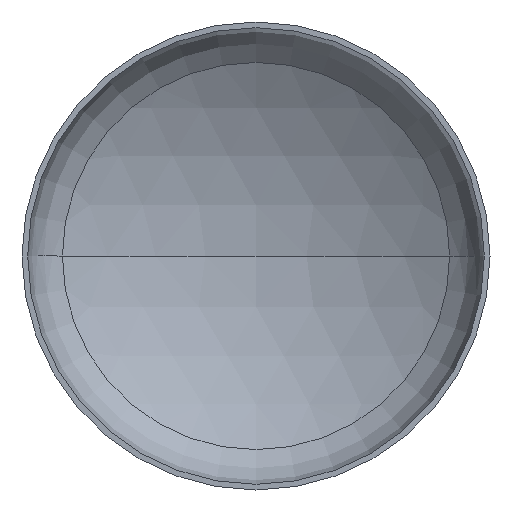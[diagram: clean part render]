
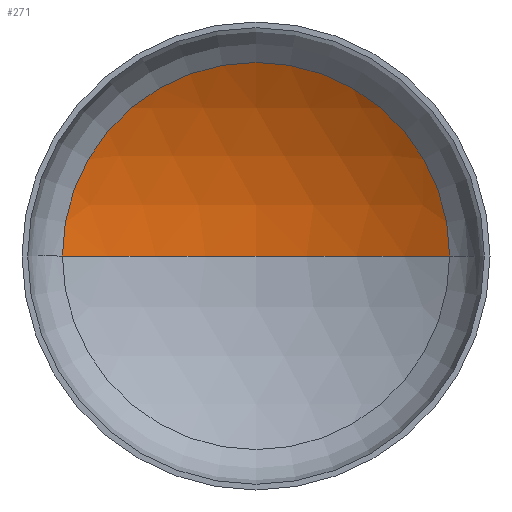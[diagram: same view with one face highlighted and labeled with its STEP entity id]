
A CAD part, front view. The second image highlights one B-rep face of the part: STEP entity #271.
In plain terms, the highlighted spherical face has radius 2240 mm.
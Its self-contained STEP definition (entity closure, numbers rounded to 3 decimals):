
#2 = AXIS2_PLACEMENT_3D ( 'NONE', #179, #390, #240 ) ;
#7 = EDGE_LOOP ( 'NONE', ( #23, #15, #111 ) ) ;
#10 = AXIS2_PLACEMENT_3D ( 'NONE', #90, #281, #283 ) ;
#15 = ORIENTED_EDGE ( 'NONE', *, *, #367, .T. ) ;
#23 = ORIENTED_EDGE ( 'NONE', *, *, #350, .F. ) ;
#24 = AXIS2_PLACEMENT_3D ( 'NONE', #168, #276, #195 ) ;
#38 = VERTEX_POINT ( 'NONE', #247 ) ;
#63 = AXIS2_PLACEMENT_3D ( 'NONE', #258, #212, #213 ) ;
#64 = CIRCLE ( 'NONE', #10, 2240. ) ;
#90 = CARTESIAN_POINT ( 'NONE',  ( 0., -1439.195, 0. ) ) ;
#103 = VERTEX_POINT ( 'NONE', #256 ) ;
#111 = ORIENTED_EDGE ( 'NONE', *, *, #370, .T. ) ;
#153 = FACE_OUTER_BOUND ( 'NONE', #7, .T. ) ;
#168 = CARTESIAN_POINT ( 'NONE',  ( 0., -1439.195, 0. ) ) ;
#179 = CARTESIAN_POINT ( 'NONE',  ( 0., 478.041, 0. ) ) ;
#191 = CIRCLE ( 'NONE', #24, 2240. ) ;
#195 = DIRECTION ( 'NONE',  ( 1., 0., 0. ) ) ;
#212 = DIRECTION ( 'NONE',  ( 0., 0., -1. ) ) ;
#213 = DIRECTION ( 'NONE',  ( -1., 0., 0. ) ) ;
#233 = CARTESIAN_POINT ( 'NONE',  ( -1158.365, 478.041, 0. ) ) ;
#240 = DIRECTION ( 'NONE',  ( 1., 0., 0. ) ) ;
#247 = CARTESIAN_POINT ( 'NONE',  ( 0., 800.805, 0. ) ) ;
#255 = VERTEX_POINT ( 'NONE', #233 ) ;
#256 = CARTESIAN_POINT ( 'NONE',  ( 1158.365, 478.041, 0. ) ) ;
#258 = CARTESIAN_POINT ( 'NONE',  ( 0., -1439.195, 0. ) ) ;
#271 = ADVANCED_FACE ( 'NONE', ( #153 ), #403, .F. ) ;
#276 = DIRECTION ( 'NONE',  ( 0., 0., 1. ) ) ;
#281 = DIRECTION ( 'NONE',  ( 0., 0., -1. ) ) ;
#283 = DIRECTION ( 'NONE',  ( -1., 0., 0. ) ) ;
#308 = CIRCLE ( 'NONE', #2, 1158.365 ) ;
#350 = EDGE_CURVE ( 'NONE', #38, #255, #191, .T. ) ;
#367 = EDGE_CURVE ( 'NONE', #38, #103, #64, .T. ) ;
#370 = EDGE_CURVE ( 'NONE', #103, #255, #308, .T. ) ;
#390 = DIRECTION ( 'NONE',  ( 0., -1., 0. ) ) ;
#403 = SPHERICAL_SURFACE ( 'NONE', #63, 2240. ) ;
